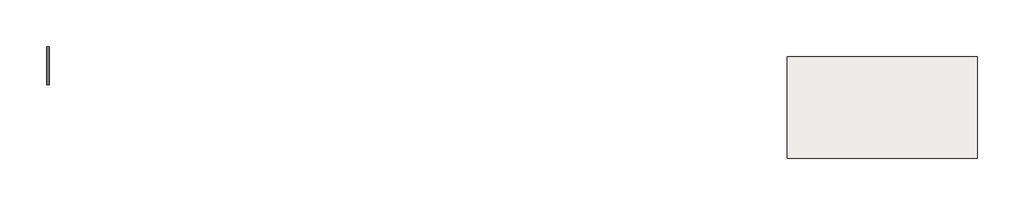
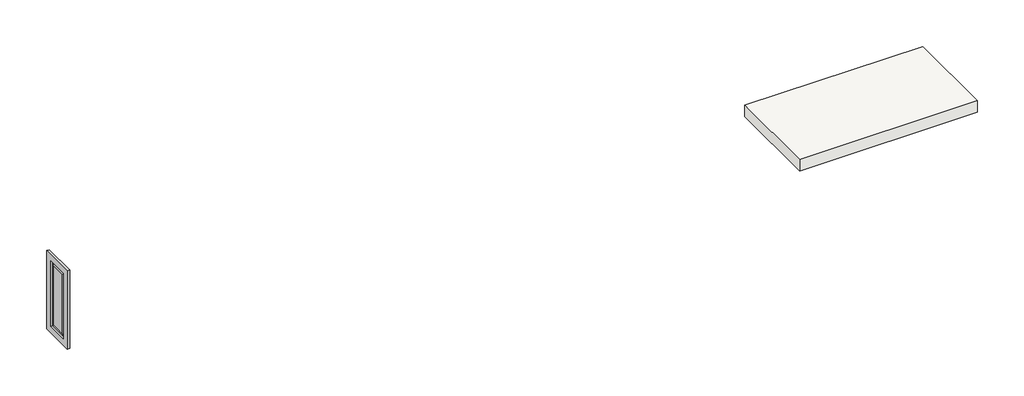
# One storey: 1 proxy, 1 slab.
"""IFC4 building model written with IfcOpenShell, lengths in millimetres."""

from ifc_helpers import new_model, si_unit, frame, origin, place, context, project, spatial, polyline, outline, extrude, transform, mapped, element, save
from components import shutter_4292_shutter_4292_2_a29cf403

model = new_model("IFC4")

# Units and contexts
model_context = context("Model", 3, world=origin())
ifc_project = project(units=[si_unit("LENGTHUNIT", "METRE", prefix="MILLI")], contexts=[model_context])

# Site, building, storey
site = spatial("IfcSite", under=ifc_project)
building = spatial("IfcBuilding", under=site)
storey = spatial("IfcBuildingStorey", under=building, Name="T.O. Great Room Ceiling", Elevation=3352.8)

# Proxy
placement = place(None, origin())
shutter_4292_shutter_4292_2_shape = shutter_4292_shutter_4292_2_a29cf403(model_context)
element("IfcBuildingElementProxy", 1, Name="Shutter_4292 : Shutter_4292 2", ObjectType="Shutter_4292 : Shutter_4292 2", at=placement, inside=storey, context=model_context, shape_type="MappedRepresentation", body=[
    mapped(shutter_4292_shutter_4292_2_shape, transform((-9880.0105992, -3813.3952303, 2590.8), x_axis=(0.0, 1.0, 0.0), y_axis=(-1.0, 0.0, 0.0), z_axis=(0.0, 0.0, 1.0))),
])

# Slab
element("IfcSlab", 2, ObjectType="Ceiling 10 inch", at=placement, inside=storey, context=model_context, shape_type="SweptSolid", body=[
    extrude(outline(polyline([(1183.2769008, -3938.8077303), (1183.2769008, -5158.0077303), (-1102.7230992, -5158.0077303), (-1102.7230992, -3938.8077303), (1183.2769008, -3938.8077303)])), frame((0.0, 0.0, 3353.8615631), z_axis=(0.0, 0.0, 1.0), x_axis=(1.0, 0.0, 0.0)), (0.0, 0.0, 1.0), 152.4),
])

save(model, "model.ifc")
